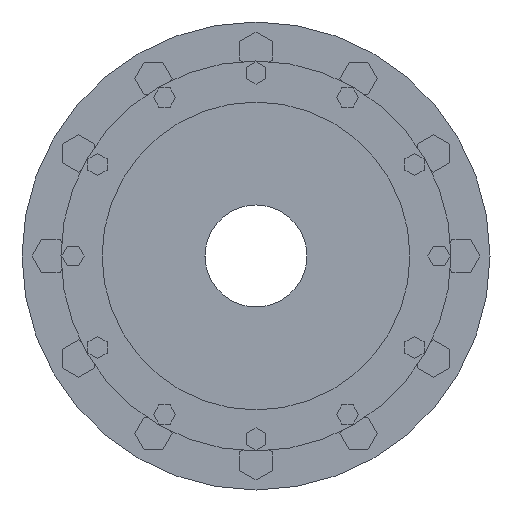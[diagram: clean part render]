
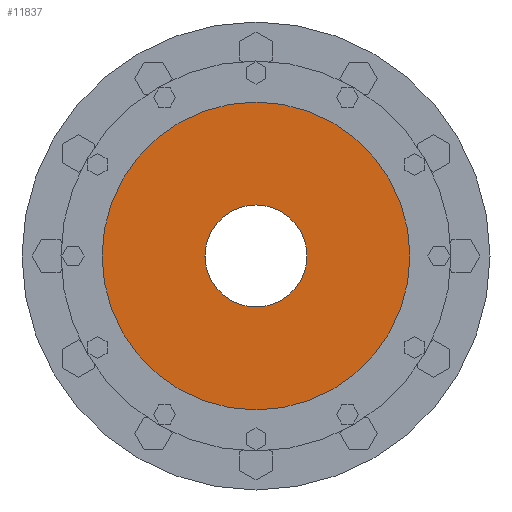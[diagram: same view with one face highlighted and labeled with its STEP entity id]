
A CAD part, left-side view. The second image highlights one B-rep face of the part: STEP entity #11837.
In plain terms, the highlighted planar face has unit normal (-1, 0, 0) as drawn and (1, 0, 0) by its records, which use the part's own axes.
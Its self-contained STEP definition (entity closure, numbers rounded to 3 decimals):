
#11661=CARTESIAN_POINT('',(-6.,0.,0.));
#11662=DIRECTION('',(1.,0.,0.));
#11663=DIRECTION('',(0.,1.,0.));
#11664=AXIS2_PLACEMENT_3D('',#11661,#11662,#11663);
#11671=CARTESIAN_POINT('',(-6.,0.,0.));
#11672=DIRECTION('',(-1.,0.,0.));
#11673=DIRECTION('',(0.,1.,0.));
#11674=AXIS2_PLACEMENT_3D('',#11671,#11672,#11673);
#11676=CARTESIAN_POINT('',(-6.,0.,0.));
#11677=DIRECTION('',(1.,0.,0.));
#11678=DIRECTION('',(0.,1.,0.));
#11679=AXIS2_PLACEMENT_3D('',#11676,#11677,#11678);
#11755=CARTESIAN_POINT('',(-6.,0.,0.));
#11756=DIRECTION('',(1.,0.,0.));
#11757=DIRECTION('',(0.,-1.,0.));
#11758=AXIS2_PLACEMENT_3D('',#11755,#11756,#11757);
#11782=CARTESIAN_POINT('',(-6.,128.25,0.));
#11784=VERTEX_POINT('',#11782);
#11786=CARTESIAN_POINT('',(-6.,-128.25,0.));
#11788=VERTEX_POINT('',#11786);
#11793=CARTESIAN_POINT('',(-6.,42.5,0.));
#11794=CARTESIAN_POINT('',(-6.,-42.5,0.));
#11795=VERTEX_POINT('',#11793);
#11796=VERTEX_POINT('',#11794);
#11821=CARTESIAN_POINT('',(-6.,0.,0.));
#11822=DIRECTION('',(1.,0.,0.));
#11823=DIRECTION('',(0.,-1.,0.));
#11824=AXIS2_PLACEMENT_3D('',#11821,#11822,#11823);
#11825=PLANE('',#11824);
#11827=ORIENTED_EDGE('',*,*,#11826,.T.);
#11829=ORIENTED_EDGE('',*,*,#11828,.F.);
#11830=EDGE_LOOP('',(#11827,#11829));
#11831=FACE_OUTER_BOUND('',#11830,.F.);
#11832=ORIENTED_EDGE('',*,*,#11810,.T.);
#11834=ORIENTED_EDGE('',*,*,#11833,.T.);
#11835=EDGE_LOOP('',(#11832,#11834));
#11836=FACE_BOUND('',#11835,.F.);
#11837=ADVANCED_FACE('',(#11831,#11836),#11825,.T.);
#11665=CIRCLE('',#11664,42.5);
#11675=CIRCLE('',#11674,128.25);
#11680=CIRCLE('',#11679,128.25);
#11759=CIRCLE('',#11758,42.5);
#11810=EDGE_CURVE('',#11795,#11796,#11665,.T.);
#11826=EDGE_CURVE('',#11784,#11788,#11675,.T.);
#11828=EDGE_CURVE('',#11784,#11788,#11680,.T.);
#11833=EDGE_CURVE('',#11796,#11795,#11759,.T.);
